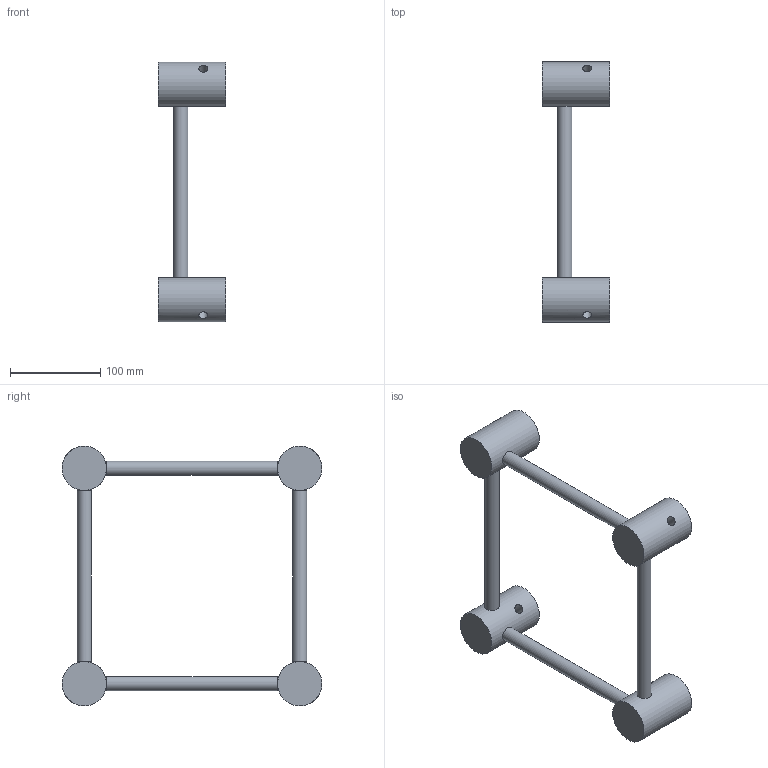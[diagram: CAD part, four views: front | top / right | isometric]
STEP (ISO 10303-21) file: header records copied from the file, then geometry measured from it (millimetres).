
FILE_DESCRIPTION(/* description */ (''),/* implementation_level */ '2;1');
FILE_NAME(/* name */ 'M:\Symbolen_NIEUW\STP\Boxcorner\111130018.stp',/* time_stamp */ '2015-11-30T10:25:01+01:00',/* author */ ('Stephan'),/* organization */ (''),/* preprocessor_version */ 'ST-DEVELOPER v15.6',/* originating_system */ 'Autodesk Inventor 2015',/* authorisation */ '');
FILE_SCHEMA (('AUTOMOTIVE_DESIGN { 1 0 10303 214 3 1 1 }'));
Length unit declared in the file: millimetre
Products named in the file (1): 160018252
Bounding box: 75 x 288.13 x 288.13 mm (x, y, z)
Volume: 710111.6 mm3; surface area: 106977.3 mm2
Topology: 8 solids, 8 shells, 28 faces, 48 edges, 32 vertices
Faces by surface type: plane 16, cylinder 12
Full cylindrical faces by diameter (mm): 10 x4, 16 x4, 49.319 x4
Entity records: 860 total; most frequent: CARTESIAN_POINT 341, DIRECTION 90, EDGE_LOOP 48, ORIENTED_EDGE 48, AXIS2_PLACEMENT_3D 45, STYLED_ITEM 36, FACE_OUTER_BOUND 28, ADVANCED_FACE 28
